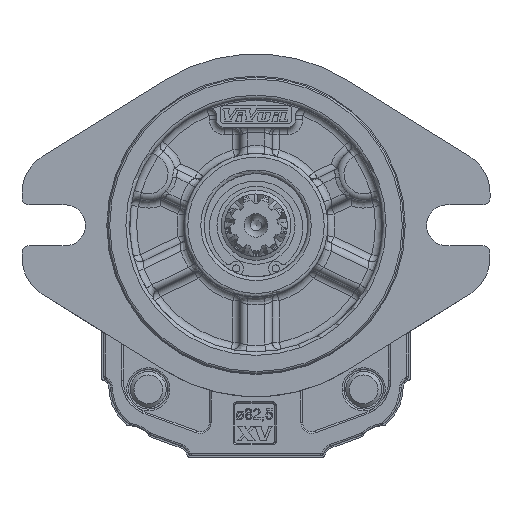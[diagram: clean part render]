
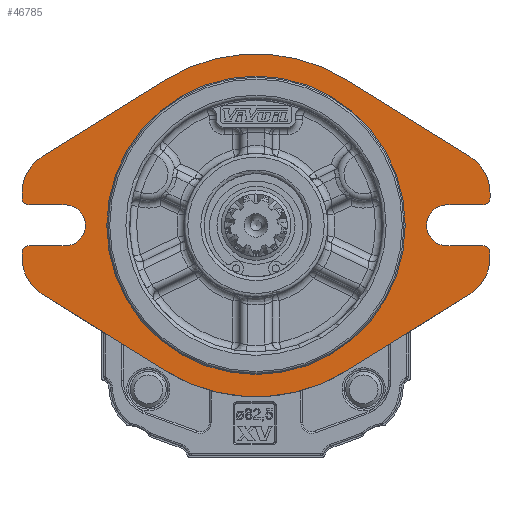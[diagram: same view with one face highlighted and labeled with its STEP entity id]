
A CAD part, front view. The second image highlights one B-rep face of the part: STEP entity #46785.
In plain terms, the highlighted planar face has unit normal (0, -1, 0).
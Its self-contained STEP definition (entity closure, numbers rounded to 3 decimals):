
#2745=LINE('',#65761,#4769);
#2749=LINE('',#65773,#4773);
#2750=LINE('',#65775,#4774);
#2757=LINE('',#65794,#4781);
#2758=LINE('',#65796,#4782);
#2765=LINE('',#65825,#4789);
#2766=LINE('',#65830,#4790);
#2767=LINE('',#65834,#4791);
#2768=LINE('',#65837,#4792);
#2769=LINE('',#65841,#4793);
#2770=LINE('',#65845,#4794);
#2771=LINE('',#65849,#4795);
#4769=VECTOR('',#54007,1000.);
#4773=VECTOR('',#54019,1000.);
#4774=VECTOR('',#54022,1000.);
#4781=VECTOR('',#54037,1000.);
#4782=VECTOR('',#54040,1000.);
#4789=VECTOR('',#54069,1000.);
#4790=VECTOR('',#54072,1000.);
#4791=VECTOR('',#54075,1000.);
#4792=VECTOR('',#54080,1000.);
#4793=VECTOR('',#54083,1000.);
#4794=VECTOR('',#54086,1000.);
#4795=VECTOR('',#54089,1000.);
#6455=PLANE('',#49277);
#9963=ORIENTED_EDGE('',*,*,#18930,.T.);
#9964=ORIENTED_EDGE('',*,*,#18931,.F.);
#9965=ORIENTED_EDGE('',*,*,#18932,.T.);
#9966=ORIENTED_EDGE('',*,*,#18933,.F.);
#9967=ORIENTED_EDGE('',*,*,#18934,.F.);
#9968=ORIENTED_EDGE('',*,*,#18935,.F.);
#9969=ORIENTED_EDGE('',*,*,#18851,.F.);
#9970=ORIENTED_EDGE('',*,*,#18900,.F.);
#9971=ORIENTED_EDGE('',*,*,#18903,.F.);
#9972=ORIENTED_EDGE('',*,*,#18906,.F.);
#9973=ORIENTED_EDGE('',*,*,#18936,.T.);
#9974=ORIENTED_EDGE('',*,*,#18907,.F.);
#9975=ORIENTED_EDGE('',*,*,#18913,.F.);
#9976=ORIENTED_EDGE('',*,*,#18916,.F.);
#9977=ORIENTED_EDGE('',*,*,#18937,.T.);
#9978=ORIENTED_EDGE('',*,*,#18917,.F.);
#9979=ORIENTED_EDGE('',*,*,#18929,.F.);
#9980=ORIENTED_EDGE('',*,*,#18938,.F.);
#9981=ORIENTED_EDGE('',*,*,#18939,.F.);
#9982=ORIENTED_EDGE('',*,*,#18940,.F.);
#9983=ORIENTED_EDGE('',*,*,#18941,.F.);
#9984=ORIENTED_EDGE('',*,*,#18942,.F.);
#9985=ORIENTED_EDGE('',*,*,#18943,.T.);
#9986=ORIENTED_EDGE('',*,*,#18944,.F.);
#9987=ORIENTED_EDGE('',*,*,#18945,.F.);
#18851=EDGE_CURVE('',#23482,#23483,#26173,.T.);
#18900=EDGE_CURVE('',#23525,#23482,#2745,.T.);
#18903=EDGE_CURVE('',#23527,#23525,#26201,.T.);
#18906=EDGE_CURVE('',#23529,#23527,#2749,.T.);
#18907=EDGE_CURVE('',#23530,#23531,#2750,.T.);
#18913=EDGE_CURVE('',#23535,#23530,#26203,.T.);
#18916=EDGE_CURVE('',#23537,#23535,#2757,.T.);
#18917=EDGE_CURVE('',#23538,#23539,#2758,.T.);
#18929=EDGE_CURVE('',#23547,#23538,#26209,.T.);
#18930=EDGE_CURVE('',#23548,#23548,#26210,.T.);
#18931=EDGE_CURVE('',#23549,#23550,#2765,.T.);
#18932=EDGE_CURVE('',#23549,#23551,#26211,.F.);
#18933=EDGE_CURVE('',#23552,#23551,#2766,.T.);
#18934=EDGE_CURVE('',#23553,#23552,#26212,.T.);
#18935=EDGE_CURVE('',#23483,#23553,#2767,.T.);
#18936=EDGE_CURVE('',#23529,#23531,#26213,.F.);
#18937=EDGE_CURVE('',#23537,#23539,#26214,.F.);
#18938=EDGE_CURVE('',#23554,#23547,#2768,.T.);
#18939=EDGE_CURVE('',#23555,#23554,#26215,.T.);
#18940=EDGE_CURVE('',#23556,#23555,#2769,.T.);
#18941=EDGE_CURVE('',#23557,#23556,#26216,.T.);
#18942=EDGE_CURVE('',#23558,#23557,#2770,.T.);
#18943=EDGE_CURVE('',#23558,#23559,#26217,.F.);
#18944=EDGE_CURVE('',#23560,#23559,#2771,.T.);
#18945=EDGE_CURVE('',#23550,#23560,#26218,.T.);
#23482=VERTEX_POINT('',#65661);
#23483=VERTEX_POINT('',#65663);
#23525=VERTEX_POINT('',#65760);
#23527=VERTEX_POINT('',#65766);
#23529=VERTEX_POINT('',#65772);
#23530=VERTEX_POINT('',#65776);
#23531=VERTEX_POINT('',#65777);
#23535=VERTEX_POINT('',#65787);
#23537=VERTEX_POINT('',#65793);
#23538=VERTEX_POINT('',#65797);
#23539=VERTEX_POINT('',#65798);
#23547=VERTEX_POINT('',#65820);
#23548=VERTEX_POINT('',#65824);
#23549=VERTEX_POINT('',#65826);
#23550=VERTEX_POINT('',#65827);
#23551=VERTEX_POINT('',#65829);
#23552=VERTEX_POINT('',#65831);
#23553=VERTEX_POINT('',#65833);
#23554=VERTEX_POINT('',#65838);
#23555=VERTEX_POINT('',#65840);
#23556=VERTEX_POINT('',#65842);
#23557=VERTEX_POINT('',#65844);
#23558=VERTEX_POINT('',#65846);
#23559=VERTEX_POINT('',#65848);
#23560=VERTEX_POINT('',#65850);
#26173=CIRCLE('',#49226,47.75);
#26201=CIRCLE('',#49260,12.);
#26203=CIRCLE('',#49265,5.7);
#26209=CIRCLE('',#49276,12.);
#26210=CIRCLE('',#49278,40.982);
#26211=CIRCLE('',#49279,2.);
#26212=CIRCLE('',#49280,12.);
#26213=CIRCLE('',#49281,2.);
#26214=CIRCLE('',#49282,2.);
#26215=CIRCLE('',#49283,47.75);
#26216=CIRCLE('',#49284,12.);
#26217=CIRCLE('',#49285,2.);
#26218=CIRCLE('',#49286,5.7);
#27943=EDGE_LOOP('',(#9963));
#27944=EDGE_LOOP('',(#9964,#9965,#9966,#9967,#9968,#9969,#9970,#9971,#9972,
#9973,#9974,#9975,#9976,#9977,#9978,#9979,#9980,#9981,#9982,#9983,#9984,
#9985,#9986,#9987));
#30285=FACE_BOUND('',#27943,.T.);
#30286=FACE_BOUND('',#27944,.T.);
#46785=ADVANCED_FACE('',(#30285,#30286),#6455,.F.);
#49226=AXIS2_PLACEMENT_3D('',#65662,#53923,#53924);
#49260=AXIS2_PLACEMENT_3D('',#65767,#54013,#54014);
#49265=AXIS2_PLACEMENT_3D('',#65788,#54031,#54032);
#49276=AXIS2_PLACEMENT_3D('',#65821,#54063,#54064);
#49277=AXIS2_PLACEMENT_3D('',#65822,#54065,#54066);
#49278=AXIS2_PLACEMENT_3D('',#65823,#54067,#54068);
#49279=AXIS2_PLACEMENT_3D('',#65828,#54070,#54071);
#49280=AXIS2_PLACEMENT_3D('',#65832,#54073,#54074);
#49281=AXIS2_PLACEMENT_3D('',#65835,#54076,#54077);
#49282=AXIS2_PLACEMENT_3D('',#65836,#54078,#54079);
#49283=AXIS2_PLACEMENT_3D('',#65839,#54081,#54082);
#49284=AXIS2_PLACEMENT_3D('',#65843,#54084,#54085);
#49285=AXIS2_PLACEMENT_3D('',#65847,#54087,#54088);
#49286=AXIS2_PLACEMENT_3D('',#65851,#54090,#54091);
#53923=DIRECTION('',(0.,1.,0.));
#53924=DIRECTION('',(-1.,0.,0.));
#54007=DIRECTION('',(-0.849,0.,-0.528));
#54013=DIRECTION('',(0.,1.,0.));
#54014=DIRECTION('',(-1.,0.,0.));
#54019=DIRECTION('',(0.,0.,-1.));
#54022=DIRECTION('',(1.,0.,0.));
#54031=DIRECTION('',(0.,-1.,0.));
#54032=DIRECTION('',(1.,0.,0.));
#54037=DIRECTION('',(-1.,0.,0.));
#54040=DIRECTION('',(0.,0.,-1.));
#54063=DIRECTION('',(0.,1.,0.));
#54064=DIRECTION('',(-1.,0.,0.));
#54065=DIRECTION('',(0.,1.,0.));
#54066=DIRECTION('',(0.,0.,-1.));
#54067=DIRECTION('',(0.,1.,0.));
#54068=DIRECTION('',(-1.,0.,0.));
#54069=DIRECTION('',(1.,0.,0.));
#54070=DIRECTION('',(0.,1.,0.));
#54071=DIRECTION('',(0.,0.,-1.));
#54072=DIRECTION('',(0.,0.,1.));
#54073=DIRECTION('',(0.,1.,0.));
#54074=DIRECTION('',(1.,0.,0.));
#54075=DIRECTION('',(-0.849,0.,0.528));
#54076=DIRECTION('',(0.,1.,0.));
#54077=DIRECTION('',(0.,0.,-1.));
#54078=DIRECTION('',(0.,1.,0.));
#54079=DIRECTION('',(0.,0.,-1.));
#54080=DIRECTION('',(0.849,0.,-0.528));
#54081=DIRECTION('',(0.,1.,0.));
#54082=DIRECTION('',(-1.,0.,0.));
#54083=DIRECTION('',(0.849,0.,0.528));
#54084=DIRECTION('',(0.,1.,0.));
#54085=DIRECTION('',(1.,0.,0.));
#54086=DIRECTION('',(0.,0.,1.));
#54087=DIRECTION('',(0.,1.,0.));
#54088=DIRECTION('',(0.,0.,-1.));
#54089=DIRECTION('',(-1.,0.,0.));
#54090=DIRECTION('',(0.,-1.,0.));
#54091=DIRECTION('',(-1.,0.,0.));
#65661=CARTESIAN_POINT('',(25.235,-19.,-24.837));
#65662=CARTESIAN_POINT('',(0.,-19.,15.7));
#65663=CARTESIAN_POINT('',(-25.235,-19.,-24.837));
#65760=CARTESIAN_POINT('',(59.532,-19.,-3.487));
#65761=CARTESIAN_POINT('',(59.532,-19.,-3.487));
#65766=CARTESIAN_POINT('',(65.19,-19.,6.7));
#65767=CARTESIAN_POINT('',(53.19,-19.,6.7));
#65772=CARTESIAN_POINT('',(65.19,-19.,8.));
#65773=CARTESIAN_POINT('',(65.19,-19.,6.7));
#65775=CARTESIAN_POINT('',(53.19,-19.,10.));
#65776=CARTESIAN_POINT('',(53.19,-19.,10.));
#65777=CARTESIAN_POINT('',(63.19,-19.,10.));
#65787=CARTESIAN_POINT('',(53.19,-19.,21.4));
#65788=CARTESIAN_POINT('',(53.19,-19.,15.7));
#65793=CARTESIAN_POINT('',(63.19,-19.,21.4));
#65794=CARTESIAN_POINT('',(53.19,-19.,21.4));
#65796=CARTESIAN_POINT('',(65.19,-19.,24.7));
#65797=CARTESIAN_POINT('',(65.19,-19.,24.7));
#65798=CARTESIAN_POINT('',(65.19,-19.,23.4));
#65820=CARTESIAN_POINT('',(59.532,-19.,34.887));
#65821=CARTESIAN_POINT('',(53.19,-19.,24.7));
#65822=CARTESIAN_POINT('',(0.,-19.,15.7));
#65823=CARTESIAN_POINT('',(0.,-19.,15.7));
#65824=CARTESIAN_POINT('',(-40.982,-19.,15.7));
#65825=CARTESIAN_POINT('',(-53.19,-19.,10.));
#65826=CARTESIAN_POINT('',(-63.19,-19.,10.));
#65827=CARTESIAN_POINT('',(-53.19,-19.,10.));
#65828=CARTESIAN_POINT('',(-63.19,-19.,8.));
#65829=CARTESIAN_POINT('',(-65.19,-19.,8.));
#65830=CARTESIAN_POINT('',(-65.19,-19.,6.7));
#65831=CARTESIAN_POINT('',(-65.19,-19.,6.7));
#65832=CARTESIAN_POINT('',(-53.19,-19.,6.7));
#65833=CARTESIAN_POINT('',(-59.532,-19.,-3.487));
#65834=CARTESIAN_POINT('',(-59.532,-19.,-3.487));
#65835=CARTESIAN_POINT('',(63.19,-19.,8.));
#65836=CARTESIAN_POINT('',(63.19,-19.,23.4));
#65837=CARTESIAN_POINT('',(25.235,-19.,56.237));
#65838=CARTESIAN_POINT('',(25.235,-19.,56.237));
#65839=CARTESIAN_POINT('',(0.,-19.,15.7));
#65840=CARTESIAN_POINT('',(-25.235,-19.,56.237));
#65841=CARTESIAN_POINT('',(-25.235,-19.,56.237));
#65842=CARTESIAN_POINT('',(-59.532,-19.,34.887));
#65843=CARTESIAN_POINT('',(-53.19,-19.,24.7));
#65844=CARTESIAN_POINT('',(-65.19,-19.,24.7));
#65845=CARTESIAN_POINT('',(-65.19,-19.,24.7));
#65846=CARTESIAN_POINT('',(-65.19,-19.,23.4));
#65847=CARTESIAN_POINT('',(-63.19,-19.,23.4));
#65848=CARTESIAN_POINT('',(-63.19,-19.,21.4));
#65849=CARTESIAN_POINT('',(-53.19,-19.,21.4));
#65850=CARTESIAN_POINT('',(-53.19,-19.,21.4));
#65851=CARTESIAN_POINT('',(-53.19,-19.,15.7));
